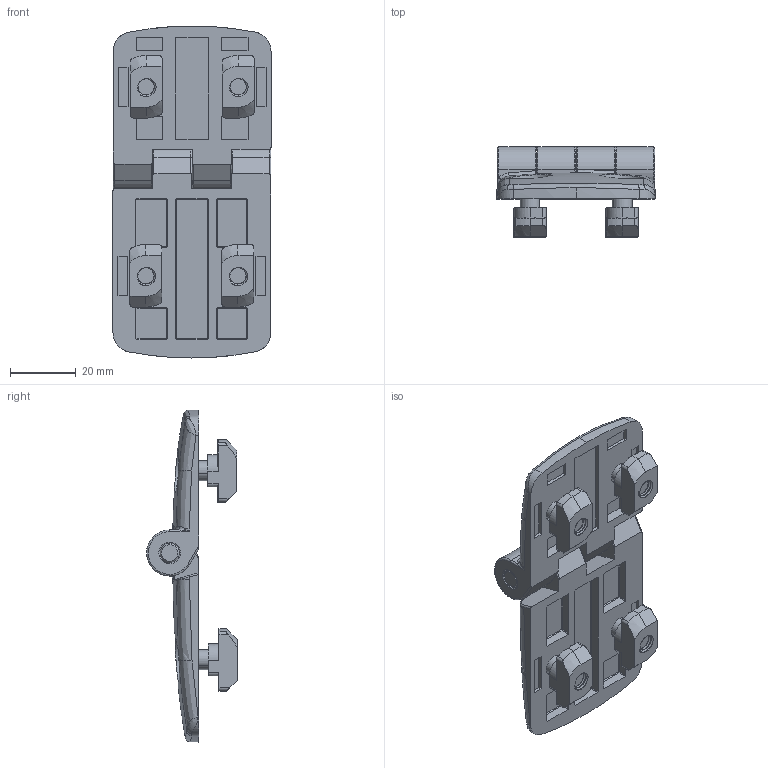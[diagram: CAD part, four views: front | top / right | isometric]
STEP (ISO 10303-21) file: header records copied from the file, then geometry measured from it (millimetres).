
FILE_DESCRIPTION (( 'STEP AP203' ), '1' );
FILE_NAME ('402040_Kunststoffscharnier 45x60 mit Bef.-Satz, Nut 10.step', '2022-05-17T12:56:43', ( '' ), ( '' ), 'SwSTEP 2.0', 'SolidWorks 2021', '' );
FILE_SCHEMA (( 'CONFIG_CONTROL_DESIGN' ));
Length unit declared in the file: millimetre
Products named in the file (7): 999485 Kunststoffscharnier 45x60 Nut 10; DIN 7991 - M6 x 16 --- 16C_DIN 7991 - M6 x 16 --- 16C; 095k45f00_095 k 45 f00; 342030 Hammermutter Nut 10 M6; 402040_Kunststoffscharnier 45x60 mit Bef.-Satz, Nut 10; 095k-02; 095k60f00_095 k 60 f00
Assembly tree (12 placements, depth 3):
  402040_Kunststoffscharnier 45x60 mit Bef.-Satz, Nut 10
    999485 Kunststoffscharnier 45x60 Nut 10
      095k45f00_095 k 45 f00
      095k60f00_095 k 60 f00
      095k-02
    DIN 7991 - M6 x 16 --- 16C_DIN 7991 - M6 x 16 --- 16C  x4
    342030 Hammermutter Nut 10 M6  x4
Bounding box: 48.08 x 27.6 x 101 mm (x, y, z)
Volume: 34814.2 mm3; surface area: 21760.7 mm2
Topology: 11 solids, 11 shells, 695 faces, 1836 edges, 1164 vertices
Faces by surface type: plane 329, cylinder 228, bspline 86, cone 44, torus 8
Entity records: 19119 total; most frequent: CARTESIAN_POINT 9458, ORIENTED_EDGE 2006, DIRECTION 1585, EDGE_CURVE 1003, VERTEX_POINT 636, LINE 553, VECTOR 553, AXIS2_PLACEMENT_3D 516
